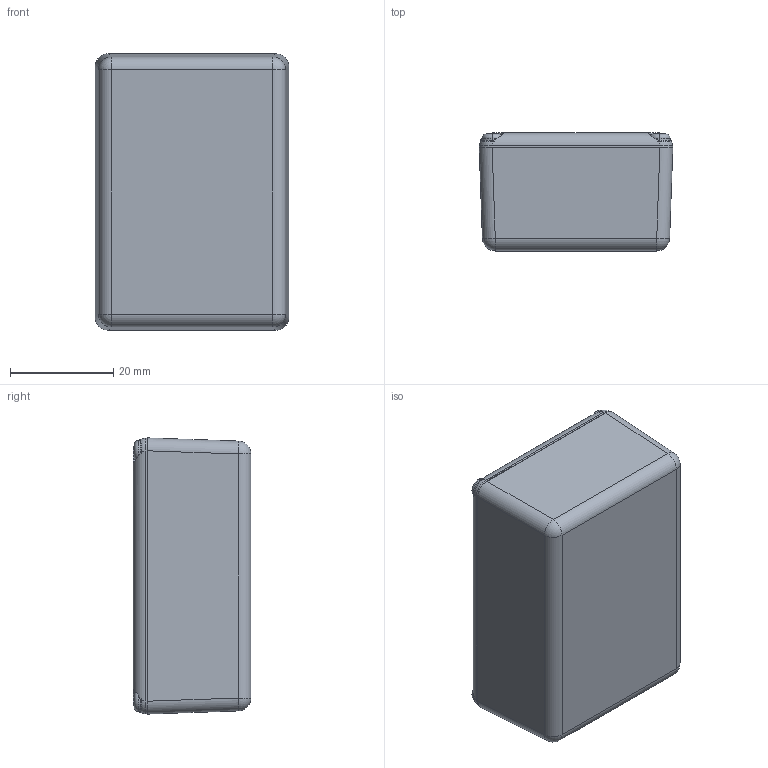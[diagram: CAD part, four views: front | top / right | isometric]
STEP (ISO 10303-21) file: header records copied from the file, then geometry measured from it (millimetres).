
FILE_DESCRIPTION (( 'STEP AP214' ), '1' );
FILE_NAME ('BMC-208.STEP', '2021-03-26T18:00:23', ( '' ), ( '' ), 'SwSTEP 2.0', 'SolidWorks 2016', '' );
FILE_SCHEMA (( 'AUTOMOTIVE_DESIGN' ));
Length unit declared in the file: millimetre
Products named in the file (4): BMC-208 Top; BMC Screw; BMC-208; BMC-208 Bottom
Assembly tree (6 placements, depth 2):
  BMC-208
    BMC-208 Bottom
    BMC-208 Top
    BMC Screw  x4
Bounding box: 37.5 x 22.8 x 53.5 mm (x, y, z)
Volume: 11229.2 mm3; surface area: 15929.2 mm2
Topology: 6 solids, 6 shells, 916 faces, 2428 edges, 1606 vertices
Faces by surface type: plane 470, bspline 334, cylinder 56, cone 40, sphere 8, torus 8
Entity records: 40836 total; most frequent: CARTESIAN_POINT 22866, ORIENTED_EDGE 4284, DIRECTION 2532, EDGE_CURVE 2142, VERTEX_POINT 1420, LINE 1288, VECTOR 1288, EDGE_LOOP 890
